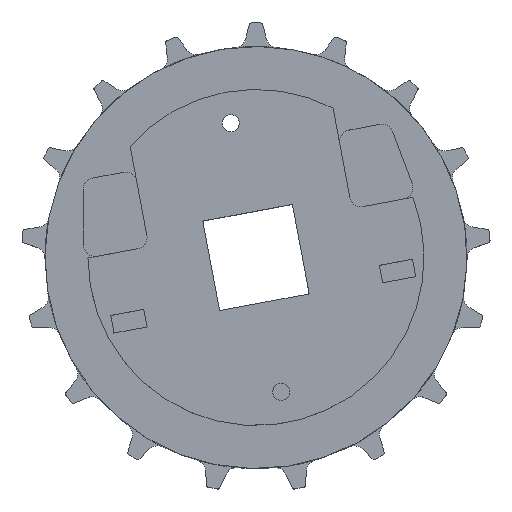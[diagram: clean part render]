
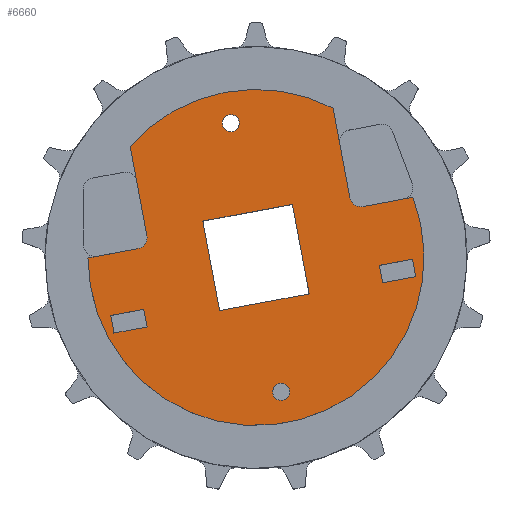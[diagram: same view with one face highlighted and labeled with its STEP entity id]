
A CAD part, top view. The second image highlights one B-rep face of the part: STEP entity #6660.
In plain terms, the highlighted planar face has unit normal (0, 0, 1).
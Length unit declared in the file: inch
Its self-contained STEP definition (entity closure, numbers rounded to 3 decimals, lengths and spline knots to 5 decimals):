
#2191=DIRECTION('',(-0.983,-0.184,0.));
#2192=VECTOR('',#2191,0.83395);
#2193=CARTESIAN_POINT('',(-1.94724,0.14466,0.74));
#2194=LINE('',#2193,#2192);
#2195=CARTESIAN_POINT('',(-1.98169,0.32897,0.74));
#2196=DIRECTION('',(0.,0.,-1.));
#2197=DIRECTION('',(0.983,0.184,0.));
#2198=AXIS2_PLACEMENT_3D('',#2195,#2196,#2197);
#2200=DIRECTION('',(0.184,-0.983,0.));
#2201=VECTOR('',#2200,1.49568);
#2202=CARTESIAN_POINT('',(-2.07221,1.83364,0.74));
#2203=LINE('',#2202,#2201);
#2204=CARTESIAN_POINT('',(0.,0.,0.74));
#2205=DIRECTION('',(0.,0.,1.));
#2206=DIRECTION('',(0.459,0.888,0.));
#2207=AXIS2_PLACEMENT_3D('',#2204,#2205,#2206);
#2209=DIRECTION('',(-0.184,0.983,0.));
#2210=VECTOR('',#2209,1.49568);
#2211=CARTESIAN_POINT('',(1.54473,0.98817,0.74));
#2212=LINE('',#2211,#2210);
#2213=CARTESIAN_POINT('',(1.72903,1.02262,0.74));
#2214=DIRECTION('',(0.,0.,-1.));
#2215=DIRECTION('',(0.184,-0.983,0.));
#2216=AXIS2_PLACEMENT_3D('',#2213,#2214,#2215);
#2218=DIRECTION('',(-0.983,-0.184,0.));
#2219=VECTOR('',#2218,0.83395);
#2220=CARTESIAN_POINT('',(2.58324,0.99155,0.74));
#2221=LINE('',#2220,#2219);
#2222=CARTESIAN_POINT('',(0.,0.,0.74));
#2223=DIRECTION('',(0.,0.,1.));
#2224=DIRECTION('',(-1.,-0.003,0.));
#2225=AXIS2_PLACEMENT_3D('',#2222,#2223,#2224);
#2227=DIRECTION('',(0.983,0.184,0.));
#2228=VECTOR('',#2227,0.554);
#2229=CARTESIAN_POINT('',(2.08526,-0.4177,0.74));
#2230=LINE('',#2229,#2228);
#2231=DIRECTION('',(-0.184,0.983,0.));
#2232=VECTOR('',#2231,0.29375);
#2233=CARTESIAN_POINT('',(2.62982,-0.3159,0.74));
#2234=LINE('',#2233,#2232);
#2235=DIRECTION('',(-0.983,-0.184,0.));
#2236=VECTOR('',#2235,0.554);
#2237=CARTESIAN_POINT('',(2.57585,-0.02715,0.74));
#2238=LINE('',#2237,#2236);
#2239=DIRECTION('',(0.184,-0.983,0.));
#2240=VECTOR('',#2239,0.29375);
#2241=CARTESIAN_POINT('',(2.03128,-0.12895,0.74));
#2242=LINE('',#2241,#2240);
#2243=DIRECTION('',(0.983,0.184,0.));
#2244=VECTOR('',#2243,0.554);
#2245=CARTESIAN_POINT('',(-2.33812,-1.24457,0.74));
#2246=LINE('',#2245,#2244);
#2247=DIRECTION('',(-0.184,0.983,0.));
#2248=VECTOR('',#2247,0.29375);
#2249=CARTESIAN_POINT('',(-1.79355,-1.14277,0.74));
#2250=LINE('',#2249,#2248);
#2251=DIRECTION('',(-0.983,-0.184,0.));
#2252=VECTOR('',#2251,0.554);
#2253=CARTESIAN_POINT('',(-1.84753,-0.85402,0.74));
#2254=LINE('',#2253,#2252);
#2255=DIRECTION('',(0.184,-0.983,0.));
#2256=VECTOR('',#2255,0.29375);
#2257=CARTESIAN_POINT('',(-2.3921,-0.95582,0.74));
#2258=LINE('',#2257,#2256);
#2259=CARTESIAN_POINT('',(-0.41344,2.21169,0.74));
#2260=DIRECTION('',(0.,0.,1.));
#2261=DIRECTION('',(0.983,0.184,0.));
#2262=AXIS2_PLACEMENT_3D('',#2259,#2260,#2261);
#2264=CARTESIAN_POINT('',(-0.41344,2.21169,0.74));
#2265=DIRECTION('',(0.,0.,1.));
#2266=DIRECTION('',(-0.983,-0.184,0.));
#2267=AXIS2_PLACEMENT_3D('',#2264,#2265,#2266);
#2269=CARTESIAN_POINT('',(0.41344,-2.21169,0.74));
#2270=DIRECTION('',(0.,0.,1.));
#2271=DIRECTION('',(0.983,0.184,0.));
#2272=AXIS2_PLACEMENT_3D('',#2269,#2270,#2271);
#2274=CARTESIAN_POINT('',(0.41344,-2.21169,0.74));
#2275=DIRECTION('',(0.,0.,1.));
#2276=DIRECTION('',(-0.983,-0.184,0.));
#2277=AXIS2_PLACEMENT_3D('',#2274,#2275,#2276);
#2279=DIRECTION('',(0.983,0.184,0.));
#2280=VECTOR('',#2279,1.5);
#2281=CARTESIAN_POINT('',(-0.59942,-0.87504,0.74));
#2282=LINE('',#2281,#2280);
#2283=DIRECTION('',(-0.184,0.983,0.));
#2284=VECTOR('',#2283,1.5);
#2285=CARTESIAN_POINT('',(0.87504,-0.59942,0.74));
#2286=LINE('',#2285,#2284);
#2287=DIRECTION('',(-0.983,-0.184,0.));
#2288=VECTOR('',#2287,1.5);
#2289=CARTESIAN_POINT('',(0.59942,0.87504,0.74));
#2290=LINE('',#2289,#2288);
#2291=DIRECTION('',(0.184,-0.983,0.));
#2292=VECTOR('',#2291,1.5);
#2293=CARTESIAN_POINT('',(-0.87504,0.59942,0.74));
#2294=LINE('',#2293,#2292);
#3271=CARTESIAN_POINT('',(-0.59942,-0.87504,0.74));
#3273=VERTEX_POINT('',#3271);
#3275=CARTESIAN_POINT('',(0.87504,-0.59942,0.74));
#3277=VERTEX_POINT('',#3275);
#3279=CARTESIAN_POINT('',(0.59942,0.87504,0.74));
#3281=VERTEX_POINT('',#3279);
#3283=CARTESIAN_POINT('',(-0.87504,0.59942,0.74));
#3285=VERTEX_POINT('',#3283);
#3295=CARTESIAN_POINT('',(-2.76699,-0.00858,0.74));
#3296=CARTESIAN_POINT('',(2.58324,0.99155,0.74));
#3297=VERTEX_POINT('',#3295);
#3298=VERTEX_POINT('',#3296);
#3299=CARTESIAN_POINT('',(1.2699,2.45838,0.74));
#3300=CARTESIAN_POINT('',(-2.07221,1.83364,0.74));
#3301=VERTEX_POINT('',#3299);
#3302=VERTEX_POINT('',#3300);
#3327=CARTESIAN_POINT('',(-1.79738,0.36342,0.74));
#3328=VERTEX_POINT('',#3327);
#3329=CARTESIAN_POINT('',(-1.94724,0.14466,0.74));
#3330=VERTEX_POINT('',#3329);
#3331=CARTESIAN_POINT('',(1.76349,0.83831,0.74));
#3332=VERTEX_POINT('',#3331);
#3333=CARTESIAN_POINT('',(1.54473,0.98817,0.74));
#3334=VERTEX_POINT('',#3333);
#3455=CARTESIAN_POINT('',(2.08526,-0.4177,0.74));
#3456=CARTESIAN_POINT('',(2.62982,-0.3159,0.74));
#3457=VERTEX_POINT('',#3455);
#3458=VERTEX_POINT('',#3456);
#3459=CARTESIAN_POINT('',(2.57585,-0.02715,0.74));
#3460=VERTEX_POINT('',#3459);
#3461=CARTESIAN_POINT('',(2.03128,-0.12895,0.74));
#3462=VERTEX_POINT('',#3461);
#3471=CARTESIAN_POINT('',(-2.33812,-1.24457,0.74));
#3472=CARTESIAN_POINT('',(-1.79355,-1.14277,0.74));
#3473=VERTEX_POINT('',#3471);
#3474=VERTEX_POINT('',#3472);
#3475=CARTESIAN_POINT('',(-1.84753,-0.85402,0.74));
#3476=VERTEX_POINT('',#3475);
#3477=CARTESIAN_POINT('',(-2.3921,-0.95582,0.74));
#3478=VERTEX_POINT('',#3477);
#3587=CARTESIAN_POINT('',(-0.27533,2.23751,0.74));
#3588=CARTESIAN_POINT('',(-0.55154,2.18587,0.74));
#3589=VERTEX_POINT('',#3587);
#3590=VERTEX_POINT('',#3588);
#3595=CARTESIAN_POINT('',(0.55154,-2.18587,0.74));
#3596=CARTESIAN_POINT('',(0.27533,-2.23751,0.74));
#3597=VERTEX_POINT('',#3595);
#3598=VERTEX_POINT('',#3596);
#6601=CARTESIAN_POINT('',(0.,0.,0.74));
#6602=DIRECTION('',(0.,0.,1.));
#6603=DIRECTION('',(0.983,0.184,0.));
#6604=AXIS2_PLACEMENT_3D('',#6601,#6602,#6603);
#6605=PLANE('',#6604);
#6606=ORIENTED_EDGE('',*,*,#6500,.F.);
#6607=ORIENTED_EDGE('',*,*,#6470,.F.);
#6608=ORIENTED_EDGE('',*,*,#6437,.F.);
#6610=ORIENTED_EDGE('',*,*,#6609,.F.);
#6611=ORIENTED_EDGE('',*,*,#6304,.F.);
#6612=ORIENTED_EDGE('',*,*,#6273,.F.);
#6613=ORIENTED_EDGE('',*,*,#6227,.F.);
#6615=ORIENTED_EDGE('',*,*,#6614,.F.);
#6616=EDGE_LOOP('',(#6606,#6607,#6608,#6610,#6611,#6612,#6613,#6615));
#6617=FACE_OUTER_BOUND('',#6616,.F.);
#6619=ORIENTED_EDGE('',*,*,#6618,.T.);
#6621=ORIENTED_EDGE('',*,*,#6620,.T.);
#6623=ORIENTED_EDGE('',*,*,#6622,.T.);
#6625=ORIENTED_EDGE('',*,*,#6624,.T.);
#6626=EDGE_LOOP('',(#6619,#6621,#6623,#6625));
#6627=FACE_BOUND('',#6626,.F.);
#6629=ORIENTED_EDGE('',*,*,#6628,.T.);
#6631=ORIENTED_EDGE('',*,*,#6630,.T.);
#6633=ORIENTED_EDGE('',*,*,#6632,.T.);
#6635=ORIENTED_EDGE('',*,*,#6634,.T.);
#6636=EDGE_LOOP('',(#6629,#6631,#6633,#6635));
#6637=FACE_BOUND('',#6636,.F.);
#6639=ORIENTED_EDGE('',*,*,#6638,.T.);
#6641=ORIENTED_EDGE('',*,*,#6640,.T.);
#6642=EDGE_LOOP('',(#6639,#6641));
#6643=FACE_BOUND('',#6642,.F.);
#6645=ORIENTED_EDGE('',*,*,#6644,.T.);
#6647=ORIENTED_EDGE('',*,*,#6646,.T.);
#6648=EDGE_LOOP('',(#6645,#6647));
#6649=FACE_BOUND('',#6648,.F.);
#6651=ORIENTED_EDGE('',*,*,#6650,.T.);
#6653=ORIENTED_EDGE('',*,*,#6652,.T.);
#6655=ORIENTED_EDGE('',*,*,#6654,.T.);
#6657=ORIENTED_EDGE('',*,*,#6656,.T.);
#6658=EDGE_LOOP('',(#6651,#6653,#6655,#6657));
#6659=FACE_BOUND('',#6658,.F.);
#6660=ADVANCED_FACE('',(#6617,#6627,#6637,#6643,#6649,#6659),#6605,.T.);
#2199=CIRCLE('',#2198,0.1875);
#2208=CIRCLE('',#2207,2.767);
#2217=CIRCLE('',#2216,0.1875);
#2226=CIRCLE('',#2225,2.767);
#2263=CIRCLE('',#2262,0.1405);
#2268=CIRCLE('',#2267,0.1405);
#2273=CIRCLE('',#2272,0.1405);
#2278=CIRCLE('',#2277,0.1405);
#6227=EDGE_CURVE('',#3298,#3332,#2221,.T.);
#6273=EDGE_CURVE('',#3332,#3334,#2217,.T.);
#6304=EDGE_CURVE('',#3334,#3301,#2212,.T.);
#6437=EDGE_CURVE('',#3302,#3328,#2203,.T.);
#6470=EDGE_CURVE('',#3328,#3330,#2199,.T.);
#6500=EDGE_CURVE('',#3330,#3297,#2194,.T.);
#6609=EDGE_CURVE('',#3301,#3302,#2208,.T.);
#6614=EDGE_CURVE('',#3297,#3298,#2226,.T.);
#6618=EDGE_CURVE('',#3457,#3458,#2230,.T.);
#6620=EDGE_CURVE('',#3458,#3460,#2234,.T.);
#6622=EDGE_CURVE('',#3460,#3462,#2238,.T.);
#6624=EDGE_CURVE('',#3462,#3457,#2242,.T.);
#6628=EDGE_CURVE('',#3473,#3474,#2246,.T.);
#6630=EDGE_CURVE('',#3474,#3476,#2250,.T.);
#6632=EDGE_CURVE('',#3476,#3478,#2254,.T.);
#6634=EDGE_CURVE('',#3478,#3473,#2258,.T.);
#6638=EDGE_CURVE('',#3589,#3590,#2263,.T.);
#6640=EDGE_CURVE('',#3590,#3589,#2268,.T.);
#6644=EDGE_CURVE('',#3597,#3598,#2273,.T.);
#6646=EDGE_CURVE('',#3598,#3597,#2278,.T.);
#6650=EDGE_CURVE('',#3273,#3277,#2282,.T.);
#6652=EDGE_CURVE('',#3277,#3281,#2286,.T.);
#6654=EDGE_CURVE('',#3281,#3285,#2290,.T.);
#6656=EDGE_CURVE('',#3285,#3273,#2294,.T.);
